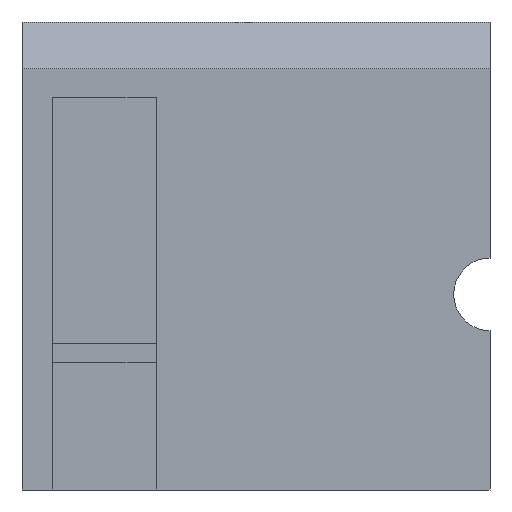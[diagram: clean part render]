
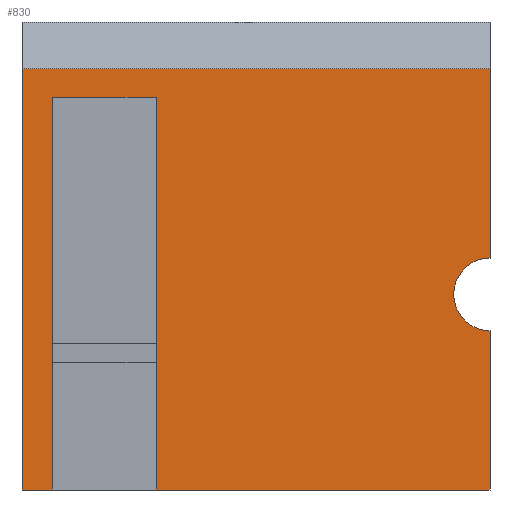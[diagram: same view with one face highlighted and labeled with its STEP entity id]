
A CAD part, front view. The second image highlights one B-rep face of the part: STEP entity #830.
In plain terms, the highlighted planar face has unit normal (0, -1, 0).
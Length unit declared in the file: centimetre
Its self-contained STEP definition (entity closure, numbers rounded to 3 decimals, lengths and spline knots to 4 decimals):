
#4 = DIRECTION ( 'NONE',  ( 1., 0., 0. ) ) ;
#8 = DIRECTION ( 'NONE',  ( 0., 0., -1. ) ) ;
#16 = ORIENTED_EDGE ( 'NONE', *, *, #631, .F. ) ;
#29 = EDGE_LOOP ( 'NONE', ( #266, #862, #730, #495, #370, #16, #194, #670, #138, #731 ) ) ;
#62 = DIRECTION ( 'NONE',  ( 0., 0., 1. ) ) ;
#80 = VECTOR ( 'NONE', #129, 100. ) ;
#86 = CARTESIAN_POINT ( 'NONE',  ( 0., 0., 900.5491 ) ) ;
#92 = VERTEX_POINT ( 'NONE', #681 ) ;
#97 = VECTOR ( 'NONE', #824, 100. ) ;
#107 = VERTEX_POINT ( 'NONE', #545 ) ;
#114 = VERTEX_POINT ( 'NONE', #335 ) ;
#129 = DIRECTION ( 'NONE',  ( 0., 0., -1. ) ) ;
#133 = VERTEX_POINT ( 'NONE', #407 ) ;
#137 = EDGE_CURVE ( 'NONE', #92, #133, #483, .T. ) ;
#138 = ORIENTED_EDGE ( 'NONE', *, *, #789, .T. ) ;
#158 = CARTESIAN_POINT ( 'NONE',  ( 1000., 0., 1000. ) ) ;
#165 = CARTESIAN_POINT ( 'NONE',  ( 64.8514, 0., 839.3358 ) ) ;
#175 = VECTOR ( 'NONE', #621, 100. ) ;
#179 = CIRCLE ( 'NONE', #516, 77.5878 ) ;
#194 = ORIENTED_EDGE ( 'NONE', *, *, #777, .T. ) ;
#196 = VERTEX_POINT ( 'NONE', #832 ) ;
#214 = CARTESIAN_POINT ( 'NONE',  ( 1000., 0., 418.041 ) ) ;
#228 = DIRECTION ( 'NONE',  ( 0., 0., 1. ) ) ;
#231 = VECTOR ( 'NONE', #4, 100. ) ;
#266 = ORIENTED_EDGE ( 'NONE', *, *, #688, .T. ) ;
#288 = FACE_OUTER_BOUND ( 'NONE', #29, .T. ) ;
#306 = CARTESIAN_POINT ( 'NONE',  ( 0., 0., 0. ) ) ;
#313 = CARTESIAN_POINT ( 'NONE',  ( 64.8514, 0., 839.3358 ) ) ;
#335 = CARTESIAN_POINT ( 'NONE',  ( 1000., 0., 900.5491 ) ) ;
#344 = EDGE_CURVE ( 'NONE', #92, #579, #390, .T. ) ;
#349 = VERTEX_POINT ( 'NONE', #919 ) ;
#352 = DIRECTION ( 'NONE',  ( 0., 0., -1. ) ) ;
#361 = DIRECTION ( 'NONE',  ( 1., 0., 0. ) ) ;
#369 = LINE ( 'NONE', #522, #80 ) ;
#370 = ORIENTED_EDGE ( 'NONE', *, *, #908, .T. ) ;
#390 = LINE ( 'NONE', #313, #175 ) ;
#392 = EDGE_CURVE ( 'NONE', #114, #107, #840, .T. ) ;
#407 = CARTESIAN_POINT ( 'NONE',  ( 286.8778, 0., 0. ) ) ;
#435 = LINE ( 'NONE', #574, #803 ) ;
#453 = AXIS2_PLACEMENT_3D ( 'NONE', #600, #983, #228 ) ;
#468 = LINE ( 'NONE', #306, #231 ) ;
#478 = CARTESIAN_POINT ( 'NONE',  ( 1000., 0., 340.4532 ) ) ;
#483 = LINE ( 'NONE', #648, #769 ) ;
#495 = ORIENTED_EDGE ( 'NONE', *, *, #137, .T. ) ;
#516 = AXIS2_PLACEMENT_3D ( 'NONE', #214, #821, #62 ) ;
#522 = CARTESIAN_POINT ( 'NONE',  ( 64.8514, 0., 839.3358 ) ) ;
#545 = CARTESIAN_POINT ( 'NONE',  ( 1000., 0., 495.6288 ) ) ;
#548 = VERTEX_POINT ( 'NONE', #478 ) ;
#574 = CARTESIAN_POINT ( 'NONE',  ( 1000., 0., 1000. ) ) ;
#577 = VECTOR ( 'NONE', #8, 100. ) ;
#579 = VERTEX_POINT ( 'NONE', #165 ) ;
#595 = PLANE ( 'NONE',  #453 ) ;
#600 = CARTESIAN_POINT ( 'NONE',  ( 0., 0., 1000. ) ) ;
#621 = DIRECTION ( 'NONE',  ( -1., 0., 0. ) ) ;
#631 = EDGE_CURVE ( 'NONE', #548, #196, #435, .T. ) ;
#648 = CARTESIAN_POINT ( 'NONE',  ( 286.8778, 0., 839.3358 ) ) ;
#666 = LINE ( 'NONE', #954, #693 ) ;
#670 = ORIENTED_EDGE ( 'NONE', *, *, #392, .F. ) ;
#675 = CARTESIAN_POINT ( 'NONE',  ( 0., 0., 900.5491 ) ) ;
#681 = CARTESIAN_POINT ( 'NONE',  ( 286.8778, 0., 839.3358 ) ) ;
#688 = EDGE_CURVE ( 'NONE', #801, #349, #666, .T. ) ;
#692 = CARTESIAN_POINT ( 'NONE',  ( 0., 0., 1000. ) ) ;
#693 = VECTOR ( 'NONE', #361, 100. ) ;
#730 = ORIENTED_EDGE ( 'NONE', *, *, #344, .F. ) ;
#731 = ORIENTED_EDGE ( 'NONE', *, *, #887, .T. ) ;
#754 = LINE ( 'NONE', #675, #97 ) ;
#769 = VECTOR ( 'NONE', #990, 100. ) ;
#777 = EDGE_CURVE ( 'NONE', #548, #107, #179, .T. ) ;
#783 = EDGE_CURVE ( 'NONE', #579, #349, #369, .T. ) ;
#789 = EDGE_CURVE ( 'NONE', #114, #991, #754, .T. ) ;
#801 = VERTEX_POINT ( 'NONE', #907 ) ;
#803 = VECTOR ( 'NONE', #352, 100. ) ;
#821 = DIRECTION ( 'NONE',  ( 0., 1., 0. ) ) ;
#824 = DIRECTION ( 'NONE',  ( -1., 0., 0. ) ) ;
#830 = ADVANCED_FACE ( 'NONE', ( #288 ), #595, .F. ) ;
#832 = CARTESIAN_POINT ( 'NONE',  ( 1000., 0., 0. ) ) ;
#840 = LINE ( 'NONE', #158, #893 ) ;
#843 = LINE ( 'NONE', #692, #577 ) ;
#862 = ORIENTED_EDGE ( 'NONE', *, *, #783, .F. ) ;
#887 = EDGE_CURVE ( 'NONE', #991, #801, #843, .T. ) ;
#893 = VECTOR ( 'NONE', #927, 100. ) ;
#907 = CARTESIAN_POINT ( 'NONE',  ( 0., 0., 0. ) ) ;
#908 = EDGE_CURVE ( 'NONE', #133, #196, #468, .T. ) ;
#919 = CARTESIAN_POINT ( 'NONE',  ( 64.8514, 0., 0. ) ) ;
#927 = DIRECTION ( 'NONE',  ( 0., 0., -1. ) ) ;
#954 = CARTESIAN_POINT ( 'NONE',  ( 0., 0., 0. ) ) ;
#983 = DIRECTION ( 'NONE',  ( 0., 1., 0. ) ) ;
#990 = DIRECTION ( 'NONE',  ( 0., 0., -1. ) ) ;
#991 = VERTEX_POINT ( 'NONE', #86 ) ;
